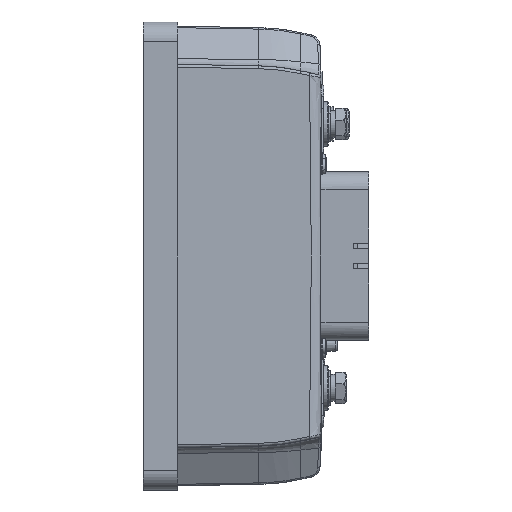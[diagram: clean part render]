
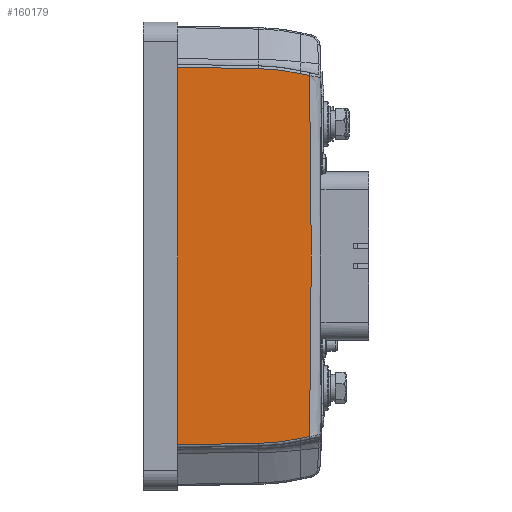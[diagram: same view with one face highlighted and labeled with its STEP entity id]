
A CAD part, left-side view. The second image highlights one B-rep face of the part: STEP entity #160179.
In plain terms, the highlighted planar face has unit normal (-1, -0.018, 0).
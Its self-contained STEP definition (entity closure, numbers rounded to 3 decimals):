
#160053 = VERTEX_POINT ( 'NONE', #165031 ) ;
#160074 = EDGE_LOOP ( 'NONE', ( #160187, #160184, #160204, #160208, #160111, #160229, #160156, #160166 ) ) ;
#160076 = VERTEX_POINT ( 'NONE', #165105 ) ;
#160111 = ORIENTED_EDGE ( 'NONE', *, *, #160209, .T. ) ;
#160116 = EDGE_CURVE ( 'NONE', #160164, #160181, #165394, .T. ) ;
#160121 = EDGE_CURVE ( 'NONE', #160133, #160164, #165363, .T. ) ;
#160133 = VERTEX_POINT ( 'NONE', #165365 ) ;
#160151 = EDGE_CURVE ( 'NONE', #160199, #160159, #165492, .T. ) ;
#160156 = ORIENTED_EDGE ( 'NONE', *, *, #160151, .T. ) ;
#160159 = VERTEX_POINT ( 'NONE', #165488 ) ;
#160164 = VERTEX_POINT ( 'NONE', #165582 ) ;
#160166 = ORIENTED_EDGE ( 'NONE', *, *, #160214, .T. ) ;
#160171 = EDGE_CURVE ( 'NONE', #160076, #160133, #165677, .T. ) ;
#160179 = ADVANCED_FACE ( 'NONE', ( #165548 ), #165658, .T. ) ;
#160181 = VERTEX_POINT ( 'NONE', #165551 ) ;
#160184 = ORIENTED_EDGE ( 'NONE', *, *, #160121, .T. ) ;
#160187 = ORIENTED_EDGE ( 'NONE', *, *, #160171, .T. ) ;
#160189 = VERTEX_POINT ( 'NONE', #165622 ) ;
#160199 = VERTEX_POINT ( 'NONE', #165651 ) ;
#160204 = ORIENTED_EDGE ( 'NONE', *, *, #160116, .T. ) ;
#160205 = EDGE_CURVE ( 'NONE', #160181, #160053, #165693, .T. ) ;
#160208 = ORIENTED_EDGE ( 'NONE', *, *, #160205, .T. ) ;
#160209 = EDGE_CURVE ( 'NONE', #160053, #160189, #165689, .T. ) ;
#160214 = EDGE_CURVE ( 'NONE', #160159, #160076, #165698, .T. ) ;
#160220 = EDGE_CURVE ( 'NONE', #160189, #160199, #165760, .T. ) ;
#160229 = ORIENTED_EDGE ( 'NONE', *, *, #160220, .T. ) ;
#165031 = CARTESIAN_POINT ( 'NONE',  ( -84.232, 33.83, 79.325 ) ) ;
#165105 = CARTESIAN_POINT ( 'NONE',  ( -83.419, -12.723, -50.814 ) ) ;
#165356 = DIRECTION ( 'NONE',  ( -0.017, 0.976, 0.216 ) ) ;
#165358 = VECTOR ( 'NONE', #165356, 1000. ) ;
#165359 = CARTESIAN_POINT ( 'NONE',  ( -83.959, 18.217, 83.223 ) ) ;
#165363 = LINE ( 'NONE', #165359, #165358 ) ;
#165365 = CARTESIAN_POINT ( 'NONE',  ( -83.419, -12.723, 76.364 ) ) ;
#165378 = CARTESIAN_POINT ( 'NONE',  ( -83.733, 5.247, 78.826 ) ) ;
#165380 = CARTESIAN_POINT ( 'NONE',  ( -83.646, 0.288, 78.739 ) ) ;
#165382 = CARTESIAN_POINT ( 'NONE',  ( -83.56, -4.637, 78.156 ) ) ;
#165384 = CARTESIAN_POINT ( 'NONE',  ( -83.476, -9.478, 77.083 ) ) ;
#165394 =( BOUNDED_CURVE ( )  B_SPLINE_CURVE ( 3, ( #165384, #165382, #165380, #165378 ),
 .UNSPECIFIED., .F., .T. ) 
 B_SPLINE_CURVE_WITH_KNOTS ( ( 4, 4 ),
 ( 1.353, 1.553 ),
 .UNSPECIFIED. ) 
 CURVE ( )  GEOMETRIC_REPRESENTATION_ITEM ( )  RATIONAL_B_SPLINE_CURVE ( ( 1., 0.997, 0.997, 1. ) ) 
 REPRESENTATION_ITEM ( '' )  );
#165480 = CARTESIAN_POINT ( 'NONE',  ( -83.733, 5.247, -53.277 ) ) ;
#165488 = CARTESIAN_POINT ( 'NONE',  ( -83.476, -9.478, -51.534 ) ) ;
#165492 =( BOUNDED_CURVE ( )  B_SPLINE_CURVE ( 3, ( #165480, #165610, #165609, #165607 ),
 .UNSPECIFIED., .F., .T. ) 
 B_SPLINE_CURVE_WITH_KNOTS ( ( 4, 4 ),
 ( 1.588, 1.789 ),
 .UNSPECIFIED. ) 
 CURVE ( )  GEOMETRIC_REPRESENTATION_ITEM ( )  RATIONAL_B_SPLINE_CURVE ( ( 1., 0.997, 0.997, 1. ) ) 
 REPRESENTATION_ITEM ( '' )  );
#165548 = FACE_OUTER_BOUND ( 'NONE', #160074, .T. ) ;
#165551 = CARTESIAN_POINT ( 'NONE',  ( -83.733, 5.247, 78.826 ) ) ;
#165578 = AXIS2_PLACEMENT_3D ( 'NONE', #165635, #165634, #165632 ) ;
#165582 = CARTESIAN_POINT ( 'NONE',  ( -83.476, -9.478, 77.083 ) ) ;
#165607 = CARTESIAN_POINT ( 'NONE',  ( -83.476, -9.478, -51.534 ) ) ;
#165609 = CARTESIAN_POINT ( 'NONE',  ( -83.56, -4.637, -52.607 ) ) ;
#165610 = CARTESIAN_POINT ( 'NONE',  ( -83.646, 0.288, -53.19 ) ) ;
#165622 = CARTESIAN_POINT ( 'NONE',  ( -84.232, 33.83, -53.776 ) ) ;
#165632 = DIRECTION ( 'NONE',  ( -0.017, 1., 0. ) ) ;
#165634 = DIRECTION ( 'NONE',  ( -1., -0.017, 0. ) ) ;
#165635 = CARTESIAN_POINT ( 'NONE',  ( -84.232, 33.83, 12.775 ) ) ;
#165651 = CARTESIAN_POINT ( 'NONE',  ( -83.733, 5.247, -53.277 ) ) ;
#165658 = PLANE ( 'NONE',  #165578 ) ;
#165663 = CARTESIAN_POINT ( 'NONE',  ( -83.419, -12.723, 76.364 ) ) ;
#165665 = CARTESIAN_POINT ( 'NONE',  ( -83.405, -13.545, 33.974 ) ) ;
#165667 = CARTESIAN_POINT ( 'NONE',  ( -83.405, -13.545, -8.424 ) ) ;
#165669 = CARTESIAN_POINT ( 'NONE',  ( -83.419, -12.723, -50.814 ) ) ;
#165677 =( BOUNDED_CURVE ( )  B_SPLINE_CURVE ( 3, ( #165669, #165667, #165665, #165663 ),
 .UNSPECIFIED., .F., .T. ) 
 B_SPLINE_CURVE_WITH_KNOTS ( ( 4, 4 ),
 ( 3.122, 3.161 ),
 .UNSPECIFIED. ) 
 CURVE ( )  GEOMETRIC_REPRESENTATION_ITEM ( )  RATIONAL_B_SPLINE_CURVE ( ( 1., 1., 1., 1. ) ) 
 REPRESENTATION_ITEM ( '' )  );
#165689 = LINE ( 'NONE', #165692, #165802 ) ;
#165692 = CARTESIAN_POINT ( 'NONE',  ( -84.232, 33.83, 12.775 ) ) ;
#165693 = LINE ( 'NONE', #165820, #165818 ) ;
#165695 = VECTOR ( 'NONE', #165786, 1000. ) ;
#165697 = CARTESIAN_POINT ( 'NONE',  ( -83.423, -12.487, -50.867 ) ) ;
#165698 = LINE ( 'NONE', #165697, #165695 ) ;
#165755 = DIRECTION ( 'NONE',  ( 0.017, -1., 0.017 ) ) ;
#165757 = VECTOR ( 'NONE', #165755, 1000. ) ;
#165758 = CARTESIAN_POINT ( 'NONE',  ( -84.211, 32.669, -53.755 ) ) ;
#165760 = LINE ( 'NONE', #165758, #165757 ) ;
#165786 = DIRECTION ( 'NONE',  ( 0.017, -0.976, 0.216 ) ) ;
#165801 = DIRECTION ( 'NONE',  ( 0., 0., -1. ) ) ;
#165802 = VECTOR ( 'NONE', #165801, 1000. ) ;
#165816 = DIRECTION ( 'NONE',  ( -0.017, 1., 0.017 ) ) ;
#165818 = VECTOR ( 'NONE', #165816, 1000. ) ;
#165820 = CARTESIAN_POINT ( 'NONE',  ( -84.232, 33.847, 79.325 ) ) ;
